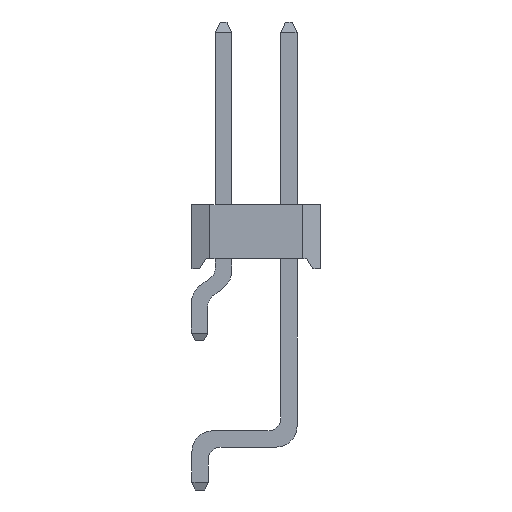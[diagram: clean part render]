
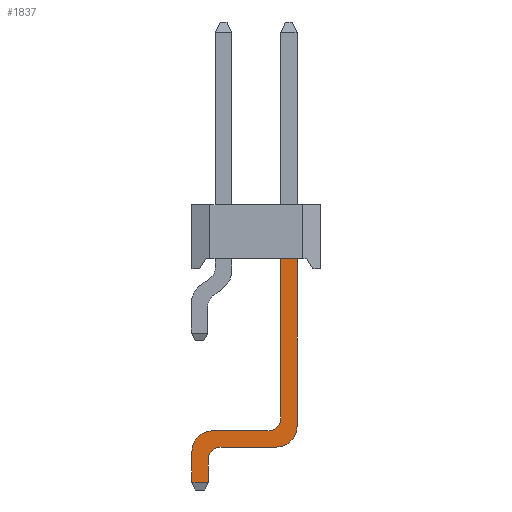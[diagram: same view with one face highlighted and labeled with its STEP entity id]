
A CAD part, left-side view. The second image highlights one B-rep face of the part: STEP entity #1837.
In plain terms, the highlighted planar face has unit normal (-1, 0, 0).
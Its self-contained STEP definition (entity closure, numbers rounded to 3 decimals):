
#482=CIRCLE('',#32966,0.8);
#483=CIRCLE('',#32967,0.5);
#484=CIRCLE('',#32968,0.8);
#485=CIRCLE('',#32969,0.5);
#1837=ADVANCED_FACE('',(#5091),#3465,.T.);
#3465=PLANE('',#32970);
#5091=FACE_OUTER_BOUND('',#6943,.T.);
#6943=EDGE_LOOP('',(#13186,#13187,#13188,#13189,#13190,#13191,#13192,#13193,
#13194,#13195,#13196,#13197));
#13186=ORIENTED_EDGE('',*,*,#22204,.T.);
#13187=ORIENTED_EDGE('',*,*,#22205,.T.);
#13188=ORIENTED_EDGE('',*,*,#22206,.F.);
#13189=ORIENTED_EDGE('',*,*,#19646,.F.);
#13190=ORIENTED_EDGE('',*,*,#22207,.T.);
#13191=ORIENTED_EDGE('',*,*,#22208,.T.);
#13192=ORIENTED_EDGE('',*,*,#22209,.F.);
#13193=ORIENTED_EDGE('',*,*,#22210,.T.);
#13194=ORIENTED_EDGE('',*,*,#22211,.T.);
#13195=ORIENTED_EDGE('',*,*,#22212,.T.);
#13196=ORIENTED_EDGE('',*,*,#22213,.F.);
#13197=ORIENTED_EDGE('',*,*,#22214,.T.);
#16842=VERTEX_POINT('',#42959);
#16843=VERTEX_POINT('',#42960);
#18442=VERTEX_POINT('',#48082);
#18443=VERTEX_POINT('',#48083);
#18444=VERTEX_POINT('',#48085);
#18445=VERTEX_POINT('',#48088);
#18446=VERTEX_POINT('',#48090);
#18447=VERTEX_POINT('',#48092);
#18448=VERTEX_POINT('',#48094);
#18449=VERTEX_POINT('',#48096);
#18450=VERTEX_POINT('',#48098);
#18451=VERTEX_POINT('',#48100);
#19646=EDGE_CURVE('',#16842,#16843,#24076,.T.);
#22204=EDGE_CURVE('',#18442,#18443,#26410,.T.);
#22205=EDGE_CURVE('',#18443,#18444,#482,.T.);
#22206=EDGE_CURVE('',#16843,#18444,#26411,.T.);
#22207=EDGE_CURVE('',#16842,#18445,#26412,.T.);
#22208=EDGE_CURVE('',#18445,#18446,#483,.T.);
#22209=EDGE_CURVE('',#18447,#18446,#26413,.T.);
#22210=EDGE_CURVE('',#18447,#18448,#484,.T.);
#22211=EDGE_CURVE('',#18448,#18449,#26414,.T.);
#22212=EDGE_CURVE('',#18449,#18450,#26415,.T.);
#22213=EDGE_CURVE('',#18451,#18450,#26416,.T.);
#22214=EDGE_CURVE('',#18451,#18442,#485,.T.);
#24076=LINE('',#42958,#28058);
#26410=LINE('',#48081,#30392);
#26411=LINE('',#48086,#30393);
#26412=LINE('',#48087,#30394);
#26413=LINE('',#48091,#30395);
#26414=LINE('',#48095,#30396);
#26415=LINE('',#48097,#30397);
#26416=LINE('',#48099,#30398);
#28058=VECTOR('',#34335,1.);
#30392=VECTOR('',#39047,1.);
#30393=VECTOR('',#39050,1.);
#30394=VECTOR('',#39051,1.);
#30395=VECTOR('',#39054,1.);
#30396=VECTOR('',#39057,1.);
#30397=VECTOR('',#39058,1.);
#30398=VECTOR('',#39059,1.);
#32966=AXIS2_PLACEMENT_3D('',#48084,#39048,#39049);
#32967=AXIS2_PLACEMENT_3D('',#48089,#39052,#39053);
#32968=AXIS2_PLACEMENT_3D('',#48093,#39055,#39056);
#32969=AXIS2_PLACEMENT_3D('',#48101,#39060,#39061);
#32970=AXIS2_PLACEMENT_3D('',#48102,#39062,#39063);
#34335=DIRECTION('',(0.,-1.,0.));
#39047=DIRECTION('',(0.,-1.,0.));
#39048=DIRECTION('',(-1.,0.,0.));
#39049=DIRECTION('',(0.,-1.,0.));
#39050=DIRECTION('',(0.,0.,-1.));
#39051=DIRECTION('',(0.,0.,-1.));
#39052=DIRECTION('',(1.,0.,0.));
#39053=DIRECTION('',(0.,-1.,0.));
#39054=DIRECTION('',(0.,-1.,0.));
#39055=DIRECTION('',(-1.,0.,0.));
#39056=DIRECTION('',(0.,-1.,0.));
#39057=DIRECTION('',(0.,0.,-1.));
#39058=DIRECTION('',(0.,-1.,0.));
#39059=DIRECTION('',(0.,0.,-1.));
#39060=DIRECTION('',(1.,0.,0.));
#39061=DIRECTION('',(0.,-1.,0.));
#39062=DIRECTION('',(-1.,0.,0.));
#39063=DIRECTION('',(0.,-1.,0.));
#42958=CARTESIAN_POINT('',(0.955,1.545,0.));
#42959=CARTESIAN_POINT('',(0.955,1.545,0.));
#42960=CARTESIAN_POINT('',(0.955,0.915,0.));
#48081=CARTESIAN_POINT('',(0.955,5.,-7.33));
#48082=CARTESIAN_POINT('',(0.955,3.87,-7.33));
#48083=CARTESIAN_POINT('',(0.955,1.715,-7.33));
#48084=CARTESIAN_POINT('',(0.955,1.715,-6.53));
#48085=CARTESIAN_POINT('',(0.955,0.915,-6.53));
#48086=CARTESIAN_POINT('',(0.955,0.915,-6.7));
#48087=CARTESIAN_POINT('',(0.955,1.545,-6.7));
#48088=CARTESIAN_POINT('',(0.955,1.545,-6.2));
#48089=CARTESIAN_POINT('',(0.955,2.045,-6.2));
#48090=CARTESIAN_POINT('',(0.955,2.045,-6.7));
#48091=CARTESIAN_POINT('',(0.955,5.,-6.7));
#48092=CARTESIAN_POINT('',(0.955,4.2,-6.7));
#48093=CARTESIAN_POINT('',(0.955,4.2,-7.5));
#48094=CARTESIAN_POINT('',(0.955,5.,-7.5));
#48095=CARTESIAN_POINT('',(0.955,5.,-7.33));
#48096=CARTESIAN_POINT('',(0.955,5.,-8.7));
#48097=CARTESIAN_POINT('',(0.955,1.545,-8.7));
#48098=CARTESIAN_POINT('',(0.955,4.37,-8.7));
#48099=CARTESIAN_POINT('',(0.955,4.37,-9.));
#48100=CARTESIAN_POINT('',(0.955,4.37,-7.83));
#48101=CARTESIAN_POINT('',(0.955,3.87,-7.83));
#48102=CARTESIAN_POINT('',(0.955,1.545,0.));
